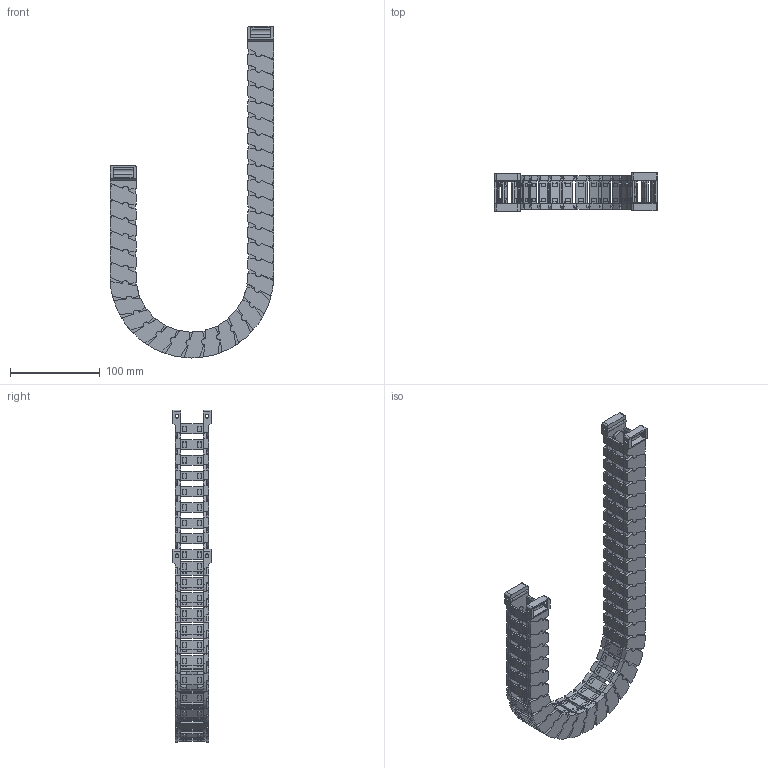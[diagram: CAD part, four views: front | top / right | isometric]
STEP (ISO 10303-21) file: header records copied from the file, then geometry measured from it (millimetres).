
FILE_DESCRIPTION(/* description */ (''),/* implementation_level */ '2;1');
FILE_NAME(/* name */ 'JY22-25-R75.stp',/* time_stamp */ '2026-06-20T14:14:10+08:00',/* author */ (''),/* organization */ (''),/* preprocessor_version */ 'ST-DEVELOPER v19.4',/* originating_system */ 'SIEMENS PLM Software NX2306.5001',/* authorisation */ '');
FILE_SCHEMA (('AP203_CONFIGURATION_CONTROLLED_3D_DESIGN_OF_MECHANICAL_PARTS_AND_ASSEMBLIES_MIM_LF { 1 0 10303 403 2 1 2}'));
Products named in the file (1): 简易图纸_objects
Bounding box: 182.32 x 42.5 x 369.64 mm (x, y, z)
Volume: 246914.9 mm3; surface area: 220634.8 mm2
Topology: 35 solids, 35 shells, 5796 faces, 18770 edges, 12494 vertices
Faces by surface type: plane 4338, cylinder 918, cone 272, bspline 268
Full cylindrical faces by diameter (mm): 4.2 x8, 7 x68, 7.1 x68
Entity records: 215779 total; most frequent: CARTESIAN_POINT 51317, ORIENTED_EDGE 36964, DIRECTION 31874, EDGE_CURVE 18482, LINE 12616, VECTOR 12616, VERTEX_POINT 12350, AXIS2_PLACEMENT_3D 9629
